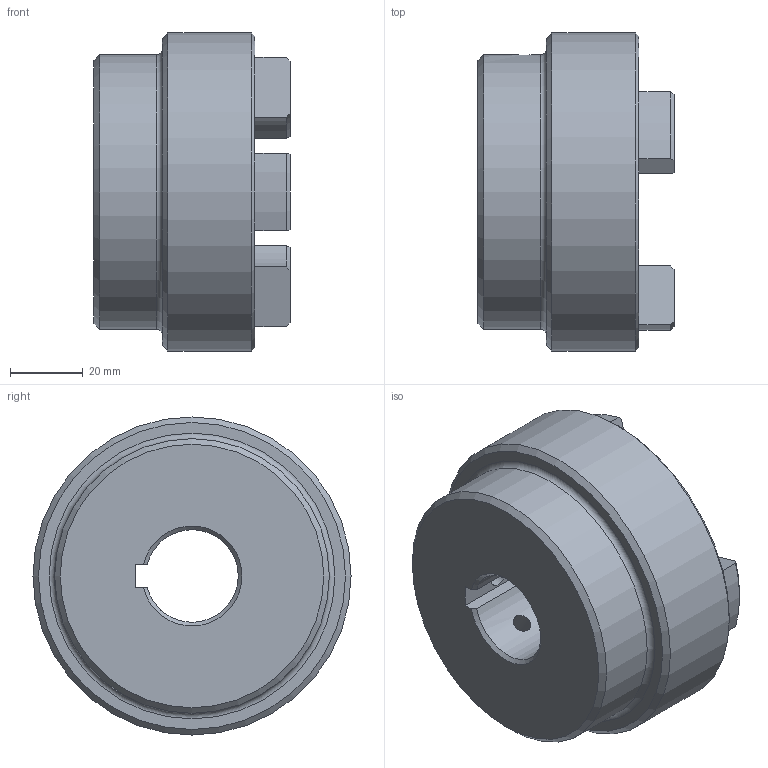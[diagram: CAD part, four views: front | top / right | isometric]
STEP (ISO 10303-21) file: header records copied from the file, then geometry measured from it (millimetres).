
FILE_DESCRIPTION (( 'STEP AP203' ), '1' );
FILE_NAME ('RC3.step', '2024-07-24T12:47:08', ( 'Adlan' ), ( '' ), 'SwSTEP 2.0', 'SolidWorks 2013', '' );
FILE_SCHEMA (( 'CONFIG_CONTROL_DESIGN' ));
Length unit declared in the file: inch
Products named in the file (1): RC3
Bounding box: 53.85 x 87.38 x 87.38 mm (x, y, z)
Volume: 178346.8 mm3; surface area: 30536.9 mm2
Topology: 1 solids, 1 shells, 67 faces, 168 edges, 105 vertices
Faces by surface type: cylinder 26, plane 16, torus 13, cone 12
Full cylindrical faces by diameter (mm): 5.105 x2, 75.438 x1, 87.376 x1
Entity records: 2237 total; most frequent: CARTESIAN_POINT 562, DIRECTION 354, ORIENTED_EDGE 310, EDGE_CURVE 155, AXIS2_PLACEMENT_3D 142, VERTEX_POINT 102, EDGE_LOOP 85, CIRCLE 74
